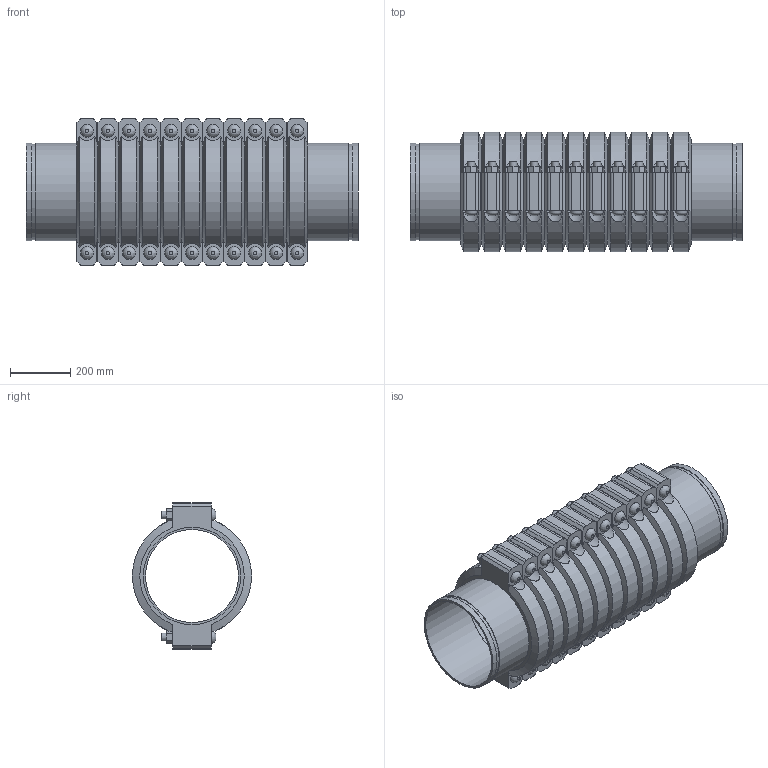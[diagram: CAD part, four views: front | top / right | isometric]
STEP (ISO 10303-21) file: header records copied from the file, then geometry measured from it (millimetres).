
FILE_DESCRIPTION(/* description */ ('VIC EXPANSION JOINT 11 COUPLINGS COMPRESSED STYLE 155 (OGS)','CAx-IF Rec.Pracs.---Representation and Presentation of Product Manufacturing Information (PMI)---4.0---2014-10-13'),/* implementation_level */ '2;1');
FILE_NAME(/* name */ 'C:\Users\kkamble\AppData\Roaming\Autodesk\ApplicationPlugins\Victaulic.Temp\A956\Victaulic_IPS_Expansion Joint_Compressed_11 Couplings_Style 155 (OGS)_12 (300).stp',/* time_stamp */ '2021-06-27T00:19:42+02:00',/* author */ ('kkamble'),/* organization */ ('Victaulic'),/* preprocessor_version */ 'ST-DEVELOPER v17.2',/* originating_system */ 'Autodesk Inventor 2019',/* authorisation */ '');
FILE_SCHEMA (('AP242_MANAGED_MODEL_BASED_3D_ENGINEERING_MIM_LF { 1 0 10303 442 1 1 4 }'));
Length unit declared in the file: inch
Products named in the file (4): 155-12.0; Nipple-12.0; Nipple-12.0_1; 077-11 Coup-12.0
Assembly tree (23 placements, depth 2):
  155-12.0
    Nipple-12.0  x2
    Nipple-12.0_1  x10
    077-11 Coup-12.0  x11
Bounding box: 1104.9 x 397 x 488.95 mm (x, y, z)
Volume: 44248903.5 mm3; surface area: 5902202.9 mm2
Topology: 23 solids, 45 shells, 771 faces, 1889 edges, 1322 vertices
Faces by surface type: plane 446, cylinder 259, cone 44, bspline 22
Full cylindrical faces by diameter (mm): 25.4 x44, 27.432 x22, 309.677 x12, 318.287 x24, 323.85 x47
Entity records: 3059 total; most frequent: CARTESIAN_POINT 657, DIRECTION 483, ORIENTED_EDGE 398, EDGE_CURVE 199, AXIS2_PLACEMENT_3D 198, VERTEX_POINT 142, EDGE_LOOP 105, CIRCLE 92
